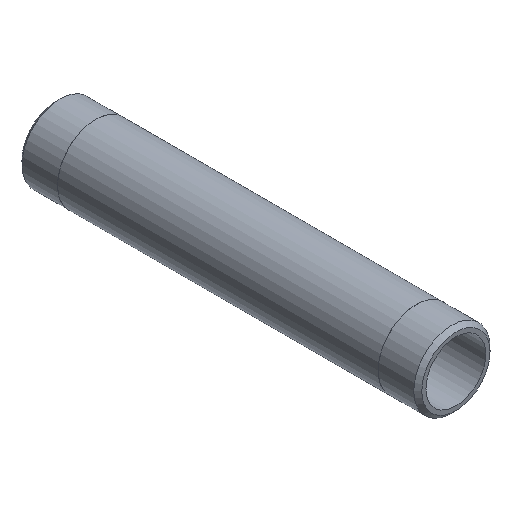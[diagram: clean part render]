
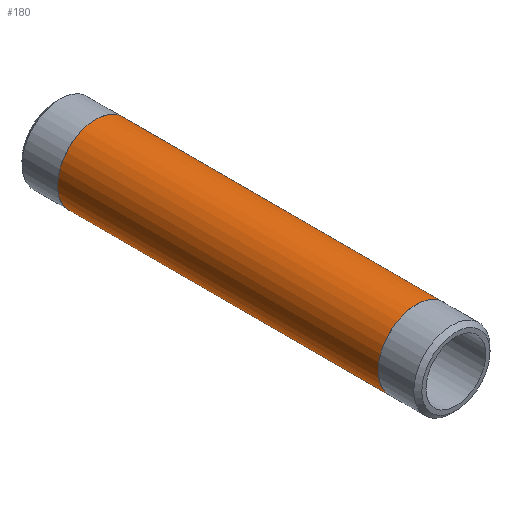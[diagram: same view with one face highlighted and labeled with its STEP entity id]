
A CAD part, isometric view. The second image highlights one B-rep face of the part: STEP entity #180.
In plain terms, the highlighted cylindrical face has radius 13.335 mm (diameter 26.67 mm), a full revolution.
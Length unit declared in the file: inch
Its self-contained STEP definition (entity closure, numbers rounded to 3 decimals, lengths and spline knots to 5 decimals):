
#25=CYLINDRICAL_SURFACE('',#220,0.525);
#34=FACE_OUTER_BOUND('',#47,.T.);
#47=EDGE_LOOP('',(#155,#156,#157,#158,#159,#160));
#55=LINE('',#338,#61);
#61=VECTOR('',#283,0.525);
#77=CIRCLE('',#218,0.525);
#78=CIRCLE('',#219,0.525);
#79=CIRCLE('',#221,0.525);
#80=CIRCLE('',#222,0.525);
#95=VERTEX_POINT('',#329);
#96=VERTEX_POINT('',#330);
#97=VERTEX_POINT('',#334);
#98=VERTEX_POINT('',#335);
#117=EDGE_CURVE('',#95,#96,#77,.T.);
#118=EDGE_CURVE('',#96,#95,#78,.T.);
#119=EDGE_CURVE('',#97,#98,#79,.T.);
#120=EDGE_CURVE('',#98,#97,#80,.T.);
#121=EDGE_CURVE('',#98,#96,#55,.T.);
#155=ORIENTED_EDGE('',*,*,#119,.F.);
#156=ORIENTED_EDGE('',*,*,#120,.F.);
#157=ORIENTED_EDGE('',*,*,#121,.T.);
#158=ORIENTED_EDGE('',*,*,#118,.T.);
#159=ORIENTED_EDGE('',*,*,#117,.T.);
#160=ORIENTED_EDGE('',*,*,#121,.F.);
#180=ADVANCED_FACE('',(#34),#25,.T.);
#218=AXIS2_PLACEMENT_3D('',#331,#273,#274);
#219=AXIS2_PLACEMENT_3D('',#332,#275,#276);
#220=AXIS2_PLACEMENT_3D('',#333,#277,#278);
#221=AXIS2_PLACEMENT_3D('',#336,#279,#280);
#222=AXIS2_PLACEMENT_3D('',#337,#281,#282);
#273=DIRECTION('center_axis',(0.,-1.,0.));
#274=DIRECTION('ref_axis',(1.,0.,0.));
#275=DIRECTION('center_axis',(0.,-1.,0.));
#276=DIRECTION('ref_axis',(1.,0.,0.));
#277=DIRECTION('center_axis',(0.,-1.,0.));
#278=DIRECTION('ref_axis',(0.,0.,-1.));
#279=DIRECTION('center_axis',(0.,-1.,0.));
#280=DIRECTION('ref_axis',(1.,0.,0.));
#281=DIRECTION('center_axis',(0.,-1.,0.));
#282=DIRECTION('ref_axis',(1.,0.,0.));
#283=DIRECTION('',(0.,1.,0.));
#329=CARTESIAN_POINT('',(0.,4.955,-0.525));
#330=CARTESIAN_POINT('',(0.,4.955,0.525));
#331=CARTESIAN_POINT('Origin',(0.,4.955,0.));
#332=CARTESIAN_POINT('Origin',(0.,4.955,0.));
#333=CARTESIAN_POINT('Origin',(0.,2.75,0.));
#334=CARTESIAN_POINT('',(0.,0.545,-0.525));
#335=CARTESIAN_POINT('',(0.,0.545,0.525));
#336=CARTESIAN_POINT('Origin',(0.,0.545,0.));
#337=CARTESIAN_POINT('Origin',(0.,0.545,0.));
#338=CARTESIAN_POINT('',(0.,2.75,0.525));
